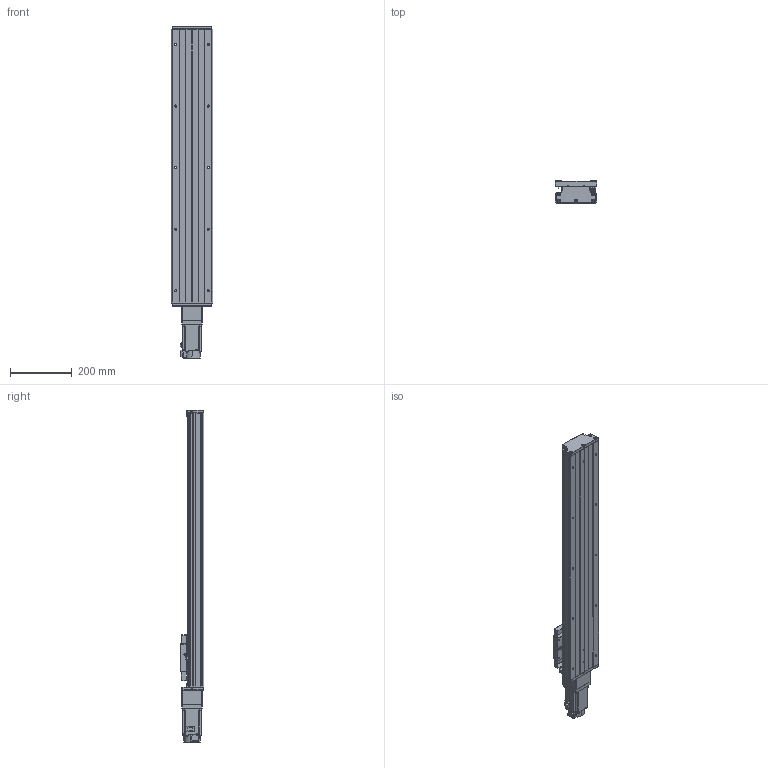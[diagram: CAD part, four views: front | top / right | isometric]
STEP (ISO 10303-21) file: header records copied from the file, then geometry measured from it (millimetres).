
FILE_DESCRIPTION (( 'STEP AP203' ), '1' );
FILE_NAME ('CTH130-700-BC-M40-C4.step', '2023-06-30T02:34:14', ( '微软用户' ), ( '微软中国' ), 'SwSTEP 2.0', 'SolidWorks 2020', '' );
FILE_SCHEMA (( 'CONFIG_CONTROL_DESIGN' ));
Length unit declared in the file: millimetre
Products named in the file (21): CTHA60-017; GB T308.1-2013-6.35; す晦芛蹟隊 M3℅5; EE_SX911P_R; GTH14-004; CTHA86-006-1_M40; CTHA60-016; CTHA86-013; GBT 70.1-M3℅5; CTHA86-027-1; GTH14-005; GBT77-2000 M3×3; GBT 70.3-M3℅8; GB1155-6X6; GTH14-001_700; CTH130-031; HG-KN43J-S100; GBT70.1 M5℅16; CTH130-002_GTH14-002; GBT 70.2-M3¡Á5_M3¡Á6; CTH130-700-BC-M40-C4
Assembly tree (59 placements, depth 2):
  CTH130-700-BC-M40-C4
    GTH14-001_700
    CTH130-002_GTH14-002
    GB T308.1-2013-6.35  x2
    GTH14-004
    GTH14-005
    GB1155-6X6  x2
    GBT70.1 M5℅16  x10
    CTHA60-017  x3
    EE_SX911P_R  x3
    CTHA60-016  x2
    GBT 70.1-M3℅5  x6
    GBT77-2000 M3×3  x6
    CTH130-031
    GBT 70.2-M3¡Á5_M3¡Á6  x8
    す晦芛蹟隊 M3℅5  x6
    CTHA86-006-1_M40
    CTHA86-013
    CTHA86-027-1
    GBT 70.3-M3℅8  x2
    HG-KN43J-S100
Bounding box: 135 x 76 x 1078.7 mm (x, y, z)
Volume: 5206741.1 mm3; surface area: 821441.7 mm2
Topology: 62 solids, 62 shells, 2380 faces, 5681 edges, 3519 vertices
Faces by surface type: plane 1303, cylinder 626, cone 287, torus 120, sphere 24, bspline 20
Entity records: 43680 total; most frequent: CARTESIAN_POINT 9805, DIRECTION 6331, ORIENTED_EDGE 6262, EDGE_CURVE 3131, AXIS2_PLACEMENT_3D 2141, VECTOR 2049, LINE 2049, VERTEX_POINT 1979
